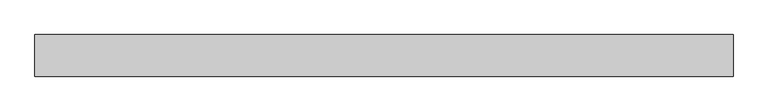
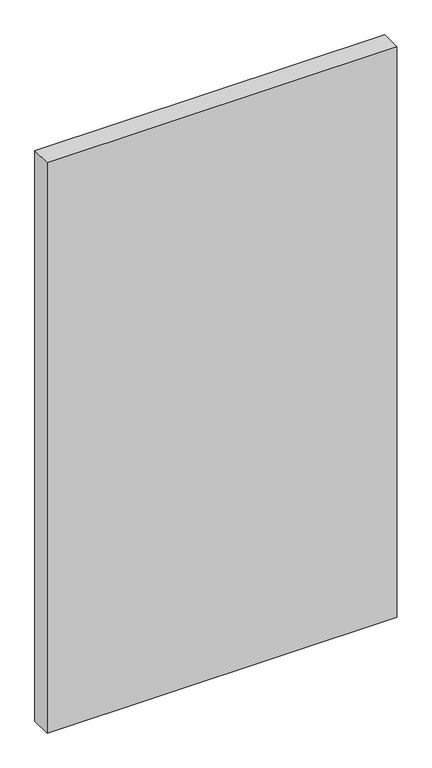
"""IFC4 building model written with IfcOpenShell, lengths in millimetres: proxy geometry, 1500x2700 Manway Cover Class D ST-02."""

from ifc_helpers import new_model, si_unit, frame, origin, place, context, project, spatial, polyline, outline, extrude, source, transform, mapped, element, save


def generic_models_3ce653ea(model_context):
    return source(origin(), model_context, "Body", "SweptSolid", [
        extrude(outline(polyline([(-830.0, 0.0), (-830.0, 100.0), (830.0, 100.0), (830.0, 0.0), (-830.0, 0.0)])), frame((0.0, 0.0, -1430.0), z_axis=(0.0, 0.0, 1.0), x_axis=(1.0, 0.0, 0.0)), (0.0, 0.0, 1.0), 2860.0),
    ])


if __name__ == "__main__":
    model = new_model("IFC4")
    model_context = context("Model", 3, world=origin())
    ifc_project = project(units=[si_unit("LENGTHUNIT", "METRE", prefix="MILLI")], contexts=[model_context])
    site = spatial("IfcSite", under=ifc_project)
    building = spatial("IfcBuilding", under=site)
    placement = place(None, origin())
    generic_models_shape = generic_models_3ce653ea(model_context)
    element("IfcBuildingElementProxy", 1, Name="1500x2700 Manway Cover Class D ST-02", ObjectType="1500x2700 Manway Cover Class D ST-02", at=placement, inside=building, context=model_context, shape_type="MappedRepresentation", body=[
        mapped(generic_models_shape, transform((0.0, 0.0, 0.0), x_axis=(1.0, 0.0, 0.0), y_axis=(0.0, 1.0, 0.0), z_axis=(0.0, 0.0, 1.0))),
    ])
    save(model, "model.ifc")
